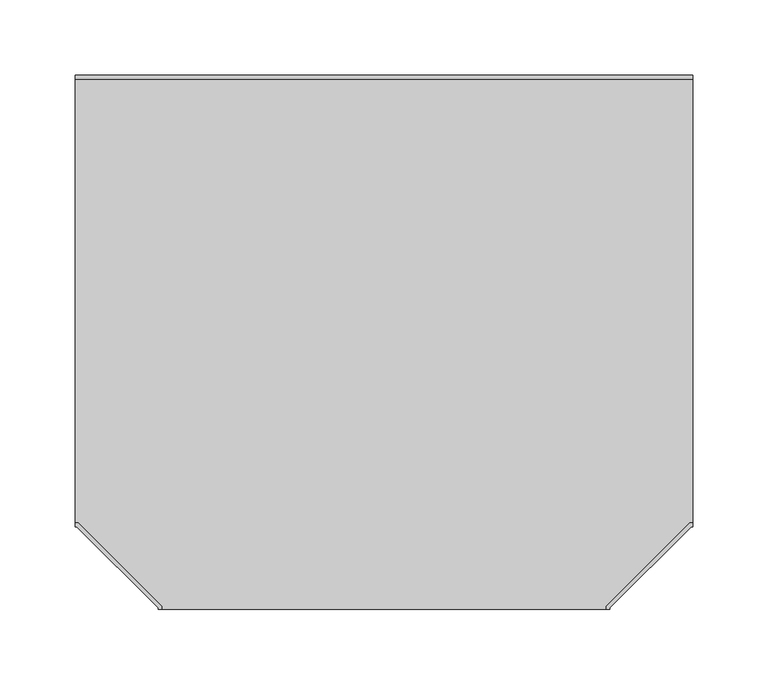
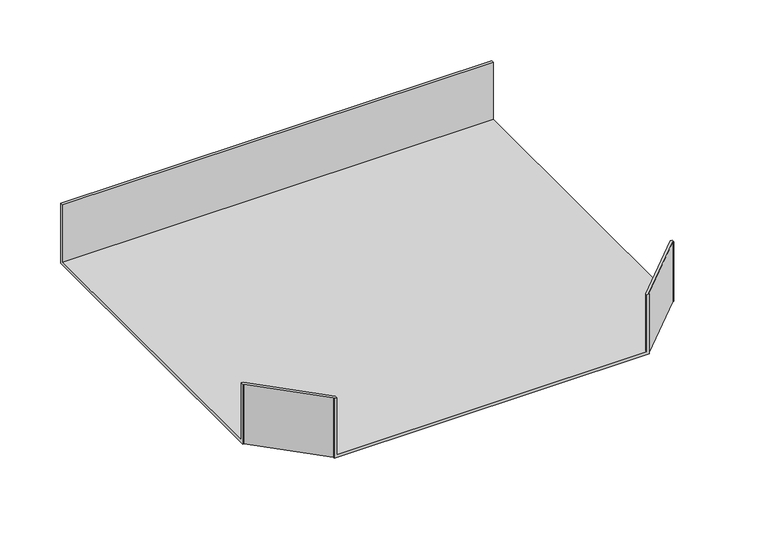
"""IFC4 building model written with IfcOpenShell, lengths in millimetres: cable carrier fitting geometry, BAKS_Mesh horizontal tee : TKSZ_H60."""

from ifc_helpers import new_model, si_unit, origin, place, context, project, spatial, faceted_brep, source, transform, mapped, element, save


def cable_carrier_fitting_5924018d(model_context):
    return source(origin(), model_context, "Body", "Brep", [
        faceted_brep([(-147.46, -202.9478976, 30.0), (-202.9478976, -147.46, 30.0), (-205.0, -147.46, 30.0), (-205.0, -150.0, 30.0), (-204.0, -150.0, 30.0), (-150.0, -204.0, 30.0), (-150.0, -205.0, 30.0), (-147.46, -205.0, 30.0), (147.46, -202.9478976, 30.0), (147.46, -205.0, 30.0), (150.0, -205.0, 30.0), (150.0, -204.0, 30.0), (204.0, -150.0, 30.0), (205.0, -150.0, 30.0), (205.0, -147.46, 30.0), (202.9478976, -147.46, 30.0), (205.0, 150.0, 30.0), (-205.0, 150.0, 30.0), (-205.0, 147.46, 30.0), (205.0, 147.46, 30.0), (-150.0, -205.0, -30.0), (-150.0, -204.0, -30.0), (-204.0, -150.0, -30.0), (-205.0, -150.0, -30.0), (-205.0, 150.0, -30.0), (205.0, 150.0, -30.0), (205.0, -150.0, -30.0), (204.0, -150.0, -30.0), (150.0, -204.0, -30.0), (150.0, -205.0, -30.0), (-147.46, -202.9478976, -27.46), (-202.9478976, -147.46, -27.46), (-205.0, -147.46, -27.46), (-205.0, 147.46, -27.46), (-204.0, -150.0, -27.46), (-150.0, -204.0, -27.46), (147.46, -205.0, -27.46), (-147.46, -205.0, -27.46), (150.0, -204.0, -27.46), (204.0, -150.0, -27.46), (205.0, 147.46, -27.46), (205.0, -147.46, -27.46), (202.9478976, -147.46, -27.46), (147.46, -202.9478976, -27.46)], [[[0, 1, 2, 3, 4, 5, 6, 7]], [[8, 9, 10, 11, 12, 13, 14, 15]], [[16, 17, 18, 19]], [[20, 21, 22, 23, 24, 25, 26, 27, 28, 29]], [[1, 0, 30, 31]], [[2, 1, 31, 32]], [[3, 2, 32, 33, 18, 17, 24, 23]], [[4, 3, 23, 22, 34]], [[5, 4, 34, 22, 21, 35]], [[20, 6, 5, 35, 21]], [[7, 6, 20, 29, 10, 9, 36, 37]], [[0, 7, 37, 30]], [[12, 11, 38, 28, 27, 39]], [[26, 13, 12, 39, 27]], [[14, 13, 26, 25, 16, 19, 40, 41]], [[15, 14, 41, 42]], [[8, 15, 42, 43]], [[9, 8, 43, 36]], [[11, 10, 29, 28, 38]], [[24, 17, 16, 25]], [[19, 18, 33, 40]], [[37, 36, 43, 42, 41, 40, 33, 32, 31, 30]]]),
    ])


if __name__ == "__main__":
    model = new_model("IFC4")
    model_context = context("Model", 3, world=origin())
    ifc_project = project(units=[si_unit("LENGTHUNIT", "METRE", prefix="MILLI")], contexts=[model_context])
    site = spatial("IfcSite", under=ifc_project)
    building = spatial("IfcBuilding", under=site)
    placement = place(None, origin())
    cable_carrier_fitting_shape = cable_carrier_fitting_5924018d(model_context)
    element("IfcCableCarrierFitting", 1, ObjectType="BAKS_Mesh horizontal tee : TKSZ_H60", at=placement, inside=building, context=model_context, shape_type="MappedRepresentation", body=[
        mapped(cable_carrier_fitting_shape, transform((0.0, 0.0, 0.0), x_axis=(1.0, 0.0, 0.0), y_axis=(0.0, 1.0, 0.0), z_axis=(0.0, 0.0, 1.0))),
    ])
    save(model, "model.ifc")
